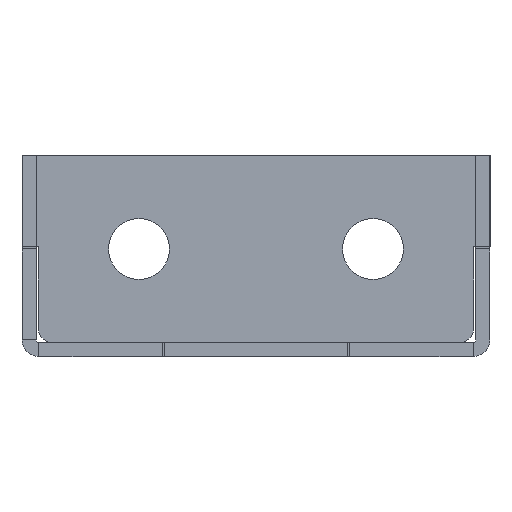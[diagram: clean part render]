
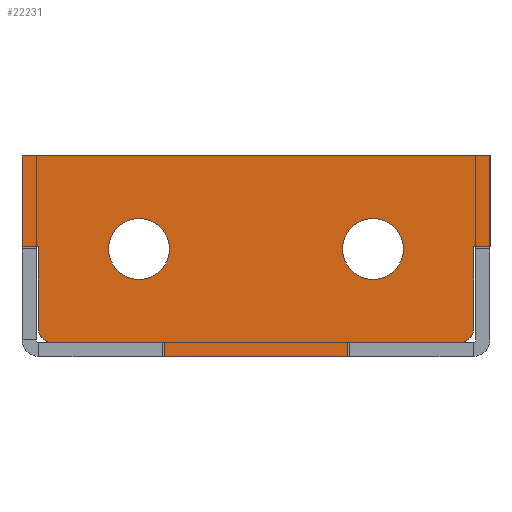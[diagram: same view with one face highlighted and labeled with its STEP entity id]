
A CAD part, left-side view. The second image highlights one B-rep face of the part: STEP entity #22231.
In plain terms, the highlighted planar face has unit normal (-1, 0, 0) as drawn and (0, 0, -1) by its records, which use the part's own axes.
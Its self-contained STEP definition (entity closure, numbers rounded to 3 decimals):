
#20716=CARTESIAN_POINT(' ',(6.5,-25.,-3.));
#20717=VERTEX_POINT(' ',#20716);
#20731=CARTESIAN_POINT(' ',(0.,-25.,-3.));
#20736=DIRECTION(' ',(0.,0.,-1.));
#20741=DIRECTION(' ',(1.,0.,0.));
#20746=AXIS2_PLACEMENT_3D(' ',#20731,#20736,#20741);
#20751=CIRCLE('',#20746,6.5);
#20756=CARTESIAN_POINT(' ',(-6.5,-25.,-3.));
#20757=VERTEX_POINT(' ',#20756);
#20761=EDGE_CURVE(' ',#20717,#20757,#20751,.T.);
#21536=CARTESIAN_POINT(' ',(0.,-25.,-3.));
#21541=DIRECTION(' ',(0.,-0.,-1.));
#21546=DIRECTION(' ',(-1.,0.,0.));
#21551=AXIS2_PLACEMENT_3D(' ',#21536,#21541,#21546);
#21556=CIRCLE('',#21551,6.5);
#21561=EDGE_CURVE(' ',#20757,#20717,#21556,.T.);
#21586=DIRECTION(' ',(-0.,0.,-1.));
#21591=CARTESIAN_POINT(' ',(-20.,-50.,-3.));
#21596=DIRECTION(' ',(0.,1.,0.));
#21601=AXIS2_PLACEMENT_3D(' ',#21591,#21586,#21596);
#21606=PLANE('NONE',#21601);
#21611=CARTESIAN_POINT(' ',(20.,-43.5,-3.));
#21616=DIRECTION(' ',(0.,1.,0.));
#21621=VECTOR(' ',#21616,1.);
#21626=LINE('',#21611,#21621);
#21631=CARTESIAN_POINT(' ',(20.,-43.5,-3.));
#21632=VERTEX_POINT(' ',#21631);
#21636=CARTESIAN_POINT(' ',(20.,-19.5,-3.));
#21637=VERTEX_POINT(' ',#21636);
#21641=EDGE_CURVE(' ',#21632,#21637,#21626,.T.);
#21646=ORIENTED_EDGE(' ',*,*,#21641,.F.);
#21651=CARTESIAN_POINT(' ',(17.,-43.5,-3.));
#21656=DIRECTION(' ',(-0.,0.,-1.));
#21661=DIRECTION(' ',(1.,0.,0.));
#21666=AXIS2_PLACEMENT_3D(' ',#21651,#21656,#21661);
#21671=CIRCLE('',#21666,3.);
#21676=CARTESIAN_POINT(' ',(17.,-46.5,-3.));
#21677=VERTEX_POINT(' ',#21676);
#21681=EDGE_CURVE(' ',#21632,#21677,#21671,.T.);
#21686=ORIENTED_EDGE(' ',*,*,#21681,.T.);
#21691=CARTESIAN_POINT(' ',(-0.5,-46.5,-3.));
#21696=DIRECTION(' ',(1.,0.,0.));
#21701=VECTOR(' ',#21696,1.);
#21706=LINE('',#21691,#21701);
#21711=CARTESIAN_POINT(' ',(-0.5,-46.5,-3.));
#21712=VERTEX_POINT(' ',#21711);
#21716=EDGE_CURVE(' ',#21712,#21677,#21706,.T.);
#21721=ORIENTED_EDGE(' ',*,*,#21716,.F.);
#21726=CARTESIAN_POINT(' ',(-0.5,-50.,-3.));
#21731=DIRECTION(' ',(0.,1.,0.));
#21736=VECTOR(' ',#21731,1.);
#21741=LINE('',#21726,#21736);
#21746=CARTESIAN_POINT(' ',(-0.5,-50.,-3.));
#21747=VERTEX_POINT(' ',#21746);
#21751=EDGE_CURVE(' ',#21747,#21712,#21741,.T.);
#21756=ORIENTED_EDGE(' ',*,*,#21751,.F.);
#21761=CARTESIAN_POINT(' ',(-20.,-50.,-3.));
#21766=DIRECTION(' ',(1.,0.,0.));
#21771=VECTOR(' ',#21766,1.);
#21776=LINE('',#21761,#21771);
#21781=CARTESIAN_POINT(' ',(-20.,-50.,-3.));
#21782=VERTEX_POINT(' ',#21781);
#21786=EDGE_CURVE(' ',#21782,#21747,#21776,.T.);
#21791=ORIENTED_EDGE(' ',*,*,#21786,.F.);
#21796=CARTESIAN_POINT(' ',(-20.,50.,-3.));
#21801=DIRECTION(' ',(0.,-1.,0.));
#21806=VECTOR(' ',#21801,1.);
#21811=LINE('',#21796,#21806);
#21816=CARTESIAN_POINT(' ',(-20.,50.,-3.));
#21817=VERTEX_POINT(' ',#21816);
#21821=EDGE_CURVE(' ',#21817,#21782,#21811,.T.);
#21826=ORIENTED_EDGE(' ',*,*,#21821,.F.);
#21831=CARTESIAN_POINT(' ',(-0.5,50.,-3.));
#21836=DIRECTION(' ',(-1.,0.,0.));
#21841=VECTOR(' ',#21836,1.);
#21846=LINE('',#21831,#21841);
#21851=CARTESIAN_POINT(' ',(-0.5,50.,-3.));
#21852=VERTEX_POINT(' ',#21851);
#21856=EDGE_CURVE(' ',#21852,#21817,#21846,.T.);
#21861=ORIENTED_EDGE(' ',*,*,#21856,.F.);
#21866=CARTESIAN_POINT(' ',(-0.5,46.5,-3.));
#21871=DIRECTION(' ',(0.,1.,0.));
#21876=VECTOR(' ',#21871,1.);
#21881=LINE('',#21866,#21876);
#21886=CARTESIAN_POINT(' ',(-0.5,46.5,-3.));
#21887=VERTEX_POINT(' ',#21886);
#21891=EDGE_CURVE(' ',#21887,#21852,#21881,.T.);
#21896=ORIENTED_EDGE(' ',*,*,#21891,.F.);
#21901=CARTESIAN_POINT(' ',(17.,46.5,-3.));
#21906=DIRECTION(' ',(-1.,0.,0.));
#21911=VECTOR(' ',#21906,1.);
#21916=LINE('',#21901,#21911);
#21921=CARTESIAN_POINT(' ',(17.,46.5,-3.));
#21922=VERTEX_POINT(' ',#21921);
#21926=EDGE_CURVE(' ',#21922,#21887,#21916,.T.);
#21931=ORIENTED_EDGE(' ',*,*,#21926,.F.);
#21936=CARTESIAN_POINT(' ',(17.,43.5,-3.));
#21941=DIRECTION(' ',(-0.,-0.,-1.));
#21946=DIRECTION(' ',(0.,1.,0.));
#21951=AXIS2_PLACEMENT_3D(' ',#21936,#21941,#21946);
#21956=CIRCLE('',#21951,3.);
#21961=CARTESIAN_POINT(' ',(20.,43.5,-3.));
#21962=VERTEX_POINT(' ',#21961);
#21966=EDGE_CURVE(' ',#21922,#21962,#21956,.T.);
#21971=ORIENTED_EDGE(' ',*,*,#21966,.T.);
#21976=CARTESIAN_POINT(' ',(20.,19.5,-3.));
#21981=DIRECTION(' ',(0.,1.,0.));
#21986=VECTOR(' ',#21981,1.);
#21991=LINE('',#21976,#21986);
#21996=CARTESIAN_POINT(' ',(20.,19.5,-3.));
#21997=VERTEX_POINT(' ',#21996);
#22001=EDGE_CURVE(' ',#21997,#21962,#21991,.T.);
#22006=ORIENTED_EDGE(' ',*,*,#22001,.F.);
#22011=CARTESIAN_POINT(' ',(23.,19.5,-3.));
#22016=DIRECTION(' ',(-1.,0.,0.));
#22021=VECTOR(' ',#22016,1.);
#22026=LINE('',#22011,#22021);
#22031=CARTESIAN_POINT(' ',(23.,19.5,-3.));
#22032=VERTEX_POINT(' ',#22031);
#22036=EDGE_CURVE(' ',#22032,#21997,#22026,.T.);
#22041=ORIENTED_EDGE(' ',*,*,#22036,.F.);
#22046=CARTESIAN_POINT(' ',(23.,-19.5,-3.));
#22051=DIRECTION(' ',(0.,1.,0.));
#22056=VECTOR(' ',#22051,1.);
#22061=LINE('',#22046,#22056);
#22066=CARTESIAN_POINT(' ',(23.,-19.5,-3.));
#22067=VERTEX_POINT(' ',#22066);
#22071=EDGE_CURVE(' ',#22067,#22032,#22061,.T.);
#22076=ORIENTED_EDGE(' ',*,*,#22071,.F.);
#22081=CARTESIAN_POINT(' ',(20.,-19.5,-3.));
#22086=DIRECTION(' ',(1.,0.,0.));
#22091=VECTOR(' ',#22086,1.);
#22096=LINE('',#22081,#22091);
#22101=EDGE_CURVE(' ',#21637,#22067,#22096,.T.);
#22106=ORIENTED_EDGE(' ',*,*,#22101,.F.);
#22111=EDGE_LOOP(' ',(#21646,#21686,#21721,#21756,#21791,#21826,#21861,#21896,#21931,#21971,#22006,#22041,#22076,#22106));
#22116=FACE_OUTER_BOUND(' ',#22111,.T.);
#22121=ORIENTED_EDGE(' ',*,*,#21561,.F.);
#22126=ORIENTED_EDGE(' ',*,*,#20761,.F.);
#22131=EDGE_LOOP(' ',(#22121,#22126));
#22136=FACE_BOUND(' ',#22131,.T.);
#22141=CARTESIAN_POINT(' ',(0.,25.,-3.));
#22146=DIRECTION(' ',(0.,-0.,-1.));
#22151=DIRECTION(' ',(-1.,0.,0.));
#22156=AXIS2_PLACEMENT_3D(' ',#22141,#22146,#22151);
#22161=CIRCLE('',#22156,6.5);
#22166=CARTESIAN_POINT(' ',(-6.5,25.,-3.));
#22167=VERTEX_POINT(' ',#22166);
#22171=CARTESIAN_POINT(' ',(6.5,25.,-3.));
#22172=VERTEX_POINT(' ',#22171);
#22176=EDGE_CURVE(' ',#22167,#22172,#22161,.T.);
#22181=ORIENTED_EDGE(' ',*,*,#22176,.F.);
#22186=CARTESIAN_POINT(' ',(0.,25.,-3.));
#22191=DIRECTION(' ',(0.,0.,-1.));
#22196=DIRECTION(' ',(1.,0.,0.));
#22201=AXIS2_PLACEMENT_3D(' ',#22186,#22191,#22196);
#22206=CIRCLE('',#22201,6.5);
#22211=EDGE_CURVE(' ',#22172,#22167,#22206,.T.);
#22216=ORIENTED_EDGE(' ',*,*,#22211,.F.);
#22221=EDGE_LOOP(' ',(#22181,#22216));
#22226=FACE_BOUND(' ',#22221,.T.);
#22231=ADVANCED_FACE('NONE',(#22116,#22136,#22226),#21606,.T.);
